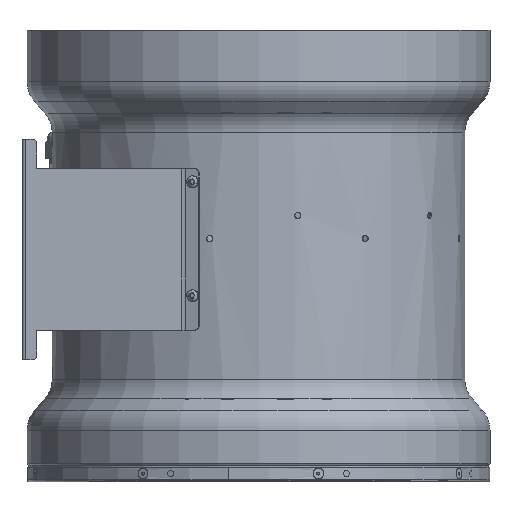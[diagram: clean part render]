
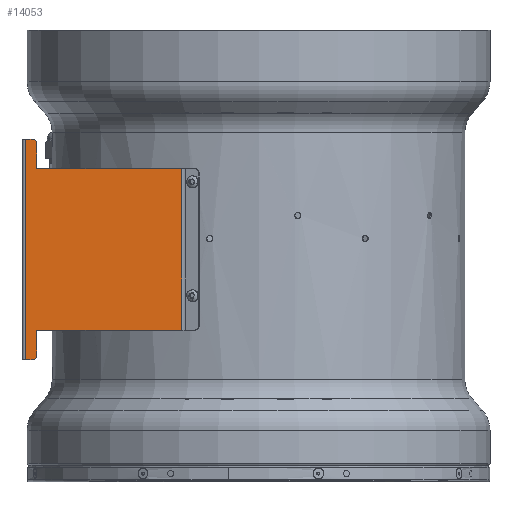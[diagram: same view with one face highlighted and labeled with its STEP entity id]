
A CAD part, left-side view. The second image highlights one B-rep face of the part: STEP entity #14053.
In plain terms, the highlighted planar face has unit normal (-1, 0, 0).
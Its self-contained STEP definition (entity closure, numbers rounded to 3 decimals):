
#768 = DIRECTION ( 'NONE',  ( 0., 1., 0. ) ) ;
#806 = CARTESIAN_POINT ( 'NONE',  ( -131.913, 50.894, 292.3 ) ) ;
#906 = DIRECTION ( 'NONE',  ( 0., 1., 0. ) ) ;
#1808 = DIRECTION ( 'NONE',  ( 0., 0., -1. ) ) ;
#1900 = CARTESIAN_POINT ( 'NONE',  ( -131.913, 158.7, 312.3 ) ) ;
#2035 = CARTESIAN_POINT ( 'NONE',  ( -131.913, 151., 165.3 ) ) ;
#2288 = AXIS2_PLACEMENT_3D ( 'NONE', #10453, #10149, #10112 ) ;
#2423 = AXIS2_PLACEMENT_3D ( 'NONE', #16796, #16230, #16637 ) ;
#3671 = EDGE_LOOP ( 'NONE', ( #14297, #14566, #10975, #13997, #14689, #14291, #11158, #13838, #13933, #14125 ) ) ;
#5009 = EDGE_CURVE ( 'NONE', #13745, #19592, #15174, .T. ) ;
#5051 = EDGE_CURVE ( 'NONE', #19880, #13745, #15030, .T. ) ;
#5100 = EDGE_CURVE ( 'NONE', #19329, #19978, #15200, .T. ) ;
#5107 = EDGE_CURVE ( 'NONE', #19371, #19592, #15053, .T. ) ;
#5123 = EDGE_CURVE ( 'NONE', #13929, #19880, #14872, .T. ) ;
#5297 = VECTOR ( 'NONE', #21137, 1000. ) ;
#5479 = CIRCLE ( 'NONE', #11613, 3. ) ;
#5498 = VECTOR ( 'NONE', #768, 1000. ) ;
#5708 = LINE ( 'NONE', #806, #5498 ) ;
#5714 = LINE ( 'NONE', #6057, #5736 ) ;
#5736 = VECTOR ( 'NONE', #906, 1000. ) ;
#5775 = LINE ( 'NONE', #21143, #5297 ) ;
#5820 = CARTESIAN_POINT ( 'NONE',  ( -131.913, 151., 309.3 ) ) ;
#6057 = CARTESIAN_POINT ( 'NONE',  ( -131.913, 50.894, 162.3 ) ) ;
#8709 = VECTOR ( 'NONE', #1808, 1000. ) ;
#9389 = FACE_OUTER_BOUND ( 'NONE', #3671, .T. ) ;
#9729 = DIRECTION ( 'NONE',  ( 0., -1., 0. ) ) ;
#9889 = CARTESIAN_POINT ( 'NONE',  ( -131.913, 151., 312.3 ) ) ;
#9996 = DIRECTION ( 'NONE',  ( 0., 0., -1. ) ) ;
#10112 = DIRECTION ( 'NONE',  ( 0., 0., 1. ) ) ;
#10149 = DIRECTION ( 'NONE',  ( -1., 0., 0. ) ) ;
#10164 = CARTESIAN_POINT ( 'NONE',  ( -131.913, 50.894, 182.3 ) ) ;
#10289 = DIRECTION ( 'NONE',  ( 0., 0., 1. ) ) ;
#10392 = DIRECTION ( 'NONE',  ( 0., 0., 1. ) ) ;
#10453 = CARTESIAN_POINT ( 'NONE',  ( -131.913, 154., 165.3 ) ) ;
#10537 = CARTESIAN_POINT ( 'NONE',  ( -131.913, 52.385, 312.3 ) ) ;
#10584 = CARTESIAN_POINT ( 'NONE',  ( -131.913, 151., 312.3 ) ) ;
#10975 = ORIENTED_EDGE ( 'NONE', *, *, #5051, .T. ) ;
#11158 = ORIENTED_EDGE ( 'NONE', *, *, #5100, .T. ) ;
#11613 = AXIS2_PLACEMENT_3D ( 'NONE', #19102, #18920, #18881 ) ;
#12657 = CARTESIAN_POINT ( 'NONE',  ( -131.913, 154., 162.3 ) ) ;
#13745 = VERTEX_POINT ( 'NONE', #25021 ) ;
#13838 = ORIENTED_EDGE ( 'NONE', *, *, #16127, .T. ) ;
#13929 = VERTEX_POINT ( 'NONE', #12657 ) ;
#13933 = ORIENTED_EDGE ( 'NONE', *, *, #16270, .T. ) ;
#13997 = ORIENTED_EDGE ( 'NONE', *, *, #5009, .T. ) ;
#14053 = ADVANCED_FACE ( 'NONE', ( #9389 ), #16240, .T. ) ;
#14125 = ORIENTED_EDGE ( 'NONE', *, *, #15852, .T. ) ;
#14291 = ORIENTED_EDGE ( 'NONE', *, *, #16028, .T. ) ;
#14297 = ORIENTED_EDGE ( 'NONE', *, *, #16007, .F. ) ;
#14348 = VERTEX_POINT ( 'NONE', #24268 ) ;
#14566 = ORIENTED_EDGE ( 'NONE', *, *, #5123, .T. ) ;
#14689 = ORIENTED_EDGE ( 'NONE', *, *, #5107, .F. ) ;
#14872 = CIRCLE ( 'NONE', #2288, 3. ) ;
#14903 = VECTOR ( 'NONE', #9729, 1000. ) ;
#15030 = LINE ( 'NONE', #9889, #15269 ) ;
#15053 = LINE ( 'NONE', #10537, #15140 ) ;
#15140 = VECTOR ( 'NONE', #9996, 1000. ) ;
#15174 = LINE ( 'NONE', #10164, #14903 ) ;
#15200 = LINE ( 'NONE', #10584, #15254 ) ;
#15254 = VECTOR ( 'NONE', #10289, 1000. ) ;
#15269 = VECTOR ( 'NONE', #10392, 1000. ) ;
#15852 = EDGE_CURVE ( 'NONE', #14348, #19700, #20077, .T. ) ;
#16007 = EDGE_CURVE ( 'NONE', #13929, #19700, #5714, .T. ) ;
#16028 = EDGE_CURVE ( 'NONE', #19371, #19329, #5708, .T. ) ;
#16127 = EDGE_CURVE ( 'NONE', #19978, #19319, #5479, .T. ) ;
#16230 = DIRECTION ( 'NONE',  ( -1., 0., 0. ) ) ;
#16240 = PLANE ( 'NONE',  #2423 ) ;
#16270 = EDGE_CURVE ( 'NONE', #19319, #14348, #5775, .T. ) ;
#16637 = DIRECTION ( 'NONE',  ( 0., 0., 1. ) ) ;
#16796 = CARTESIAN_POINT ( 'NONE',  ( -131.913, 50.894, 312.3 ) ) ;
#18881 = DIRECTION ( 'NONE',  ( 0., 0., 1. ) ) ;
#18920 = DIRECTION ( 'NONE',  ( -1., 0., 0. ) ) ;
#19102 = CARTESIAN_POINT ( 'NONE',  ( -131.913, 154., 309.3 ) ) ;
#19319 = VERTEX_POINT ( 'NONE', #22665 ) ;
#19329 = VERTEX_POINT ( 'NONE', #22582 ) ;
#19371 = VERTEX_POINT ( 'NONE', #23631 ) ;
#19592 = VERTEX_POINT ( 'NONE', #23722 ) ;
#19700 = VERTEX_POINT ( 'NONE', #23251 ) ;
#19880 = VERTEX_POINT ( 'NONE', #2035 ) ;
#19978 = VERTEX_POINT ( 'NONE', #5820 ) ;
#20077 = LINE ( 'NONE', #1900, #8709 ) ;
#21137 = DIRECTION ( 'NONE',  ( 0., 1., 0. ) ) ;
#21143 = CARTESIAN_POINT ( 'NONE',  ( -131.913, 50.894, 312.3 ) ) ;
#22582 = CARTESIAN_POINT ( 'NONE',  ( -131.913, 151., 292.3 ) ) ;
#22665 = CARTESIAN_POINT ( 'NONE',  ( -131.913, 154., 312.3 ) ) ;
#23251 = CARTESIAN_POINT ( 'NONE',  ( -131.913, 158.7, 162.3 ) ) ;
#23631 = CARTESIAN_POINT ( 'NONE',  ( -131.913, 52.385, 292.3 ) ) ;
#23722 = CARTESIAN_POINT ( 'NONE',  ( -131.913, 52.385, 182.3 ) ) ;
#24268 = CARTESIAN_POINT ( 'NONE',  ( -131.913, 158.7, 312.3 ) ) ;
#25021 = CARTESIAN_POINT ( 'NONE',  ( -131.913, 151., 182.3 ) ) ;
